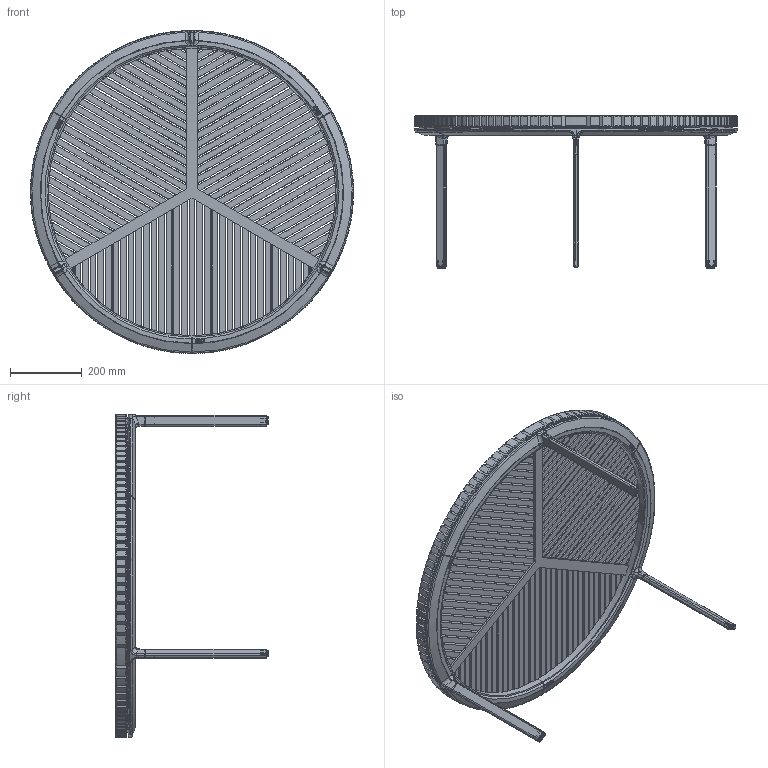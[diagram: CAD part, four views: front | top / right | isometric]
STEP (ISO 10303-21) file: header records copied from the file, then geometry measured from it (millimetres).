
FILE_DESCRIPTION (( 'STEP AP203' ), '1' );
FILE_NAME ('V716 Outdoor Ø90 Coffee Table.STEP', '2022-11-16T12:24:44', ( '' ), ( '' ), 'SwSTEP 2.0', 'SolidWorks 2019', '' );
FILE_SCHEMA (( 'CONFIG_CONTROL_DESIGN' ));
Products named in the file (1): V716 Outdoor Ø90 Coffee Table
Bounding box: 901 x 424.4 x 900.89 mm (x, y, z)
Volume: 17434178.1 mm3; surface area: 3472274.7 mm2
Topology: 5 solids, 13 shells, 4679 faces, 11465 edges, 6706 vertices
Faces by surface type: cylinder 1889, bspline 1447, plane 950, cone 393
Entity records: 206162 total; most frequent: CARTESIAN_POINT 109097, ORIENTED_EDGE 22376, DIRECTION 17541, EDGE_CURVE 11188, VERTEX_POINT 6706, AXIS2_PLACEMENT_3D 6567, EDGE_LOOP 4868, ADVANCED_FACE 4679
